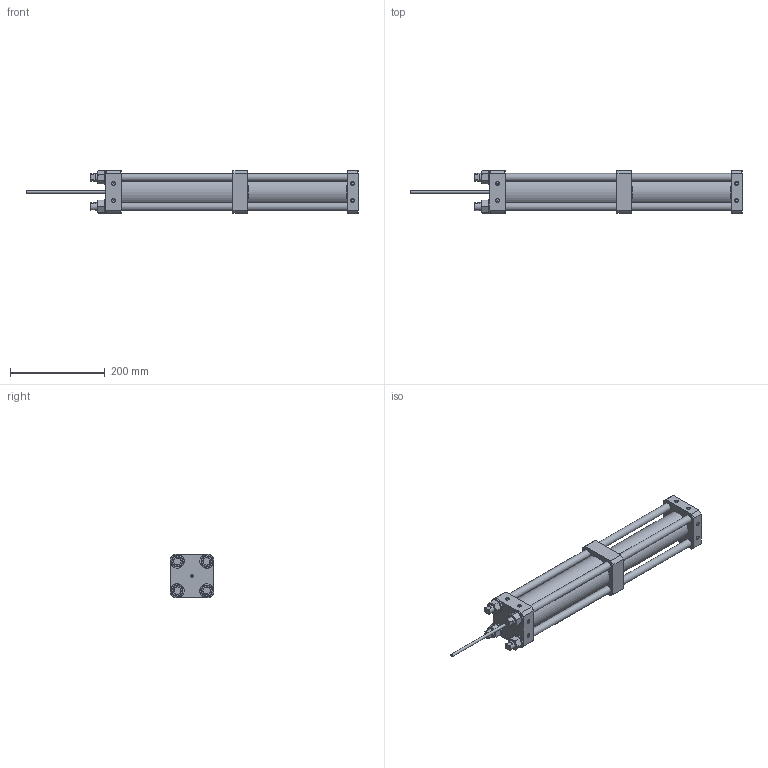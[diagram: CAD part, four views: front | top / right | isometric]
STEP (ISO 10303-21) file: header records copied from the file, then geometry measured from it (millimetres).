
FILE_DESCRIPTION(/* description */ (''),/* implementation_level */ '2;1');
FILE_NAME(/* name */ 'H32.3000.stp',/* time_stamp */ '2026-04-24T11:49:54+02:00',/* author */ ('janos'),/* organization */ (''),/* preprocessor_version */ 'ST-DEVELOPER v19.2',/* originating_system */ 'Autodesk Inventor 2024',/* authorisation */ '');
FILE_SCHEMA (('AUTOMOTIVE_DESIGN { 1 0 10303 214 3 1 1 }'));
Length unit declared in the file: millimetre
Products named in the file (1): HDÜ.BG.3000.32.1_Vereinfachen_1
Bounding box: 702 x 92.23 x 92.23 mm (x, y, z)
Volume: 2552095.6 mm3; surface area: 275872.2 mm2
Topology: 1 solids, 1 shells, 259 faces, 656 edges, 412 vertices
Faces by surface type: plane 117, cone 86, cylinder 55, torus 1
Full cylindrical faces by diameter (mm): 5 x2, 6 x1, 6.647 x16, 11.445 x2, 14.376 x1, 16 x8, 17 x4, 30 x4, 45 x1, 58 x1, 70 x1
Entity records: 7738 total; most frequent: CARTESIAN_POINT 1594, DIRECTION 1301, ORIENTED_EDGE 1280, EDGE_CURVE 640, AXIS2_PLACEMENT_3D 511, VERTEX_POINT 412, EDGE_LOOP 308, LINE 279
